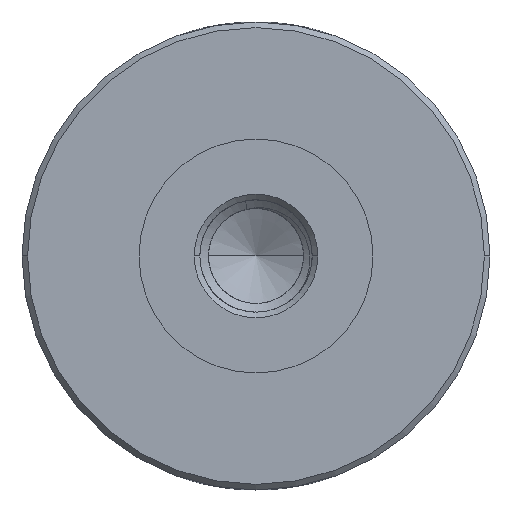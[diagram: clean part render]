
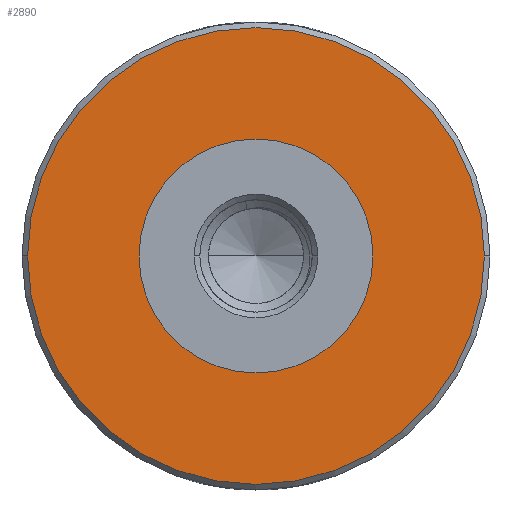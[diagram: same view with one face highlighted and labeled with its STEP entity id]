
A CAD part, front view. The second image highlights one B-rep face of the part: STEP entity #2890.
In plain terms, the highlighted planar face has unit normal (0, -1, 0).
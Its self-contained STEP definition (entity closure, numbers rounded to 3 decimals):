
#1=CARTESIAN_POINT('',(0.,-100.,0.));
#2=DIRECTION('',(0.,1.,0.));
#3=DIRECTION('',(1.,0.,0.));
#4=AXIS2_PLACEMENT_3D('',#1,#2,#3);
#6=CARTESIAN_POINT('',(0.,-100.,0.));
#7=DIRECTION('',(0.,1.,0.));
#8=DIRECTION('',(-1.,0.,0.));
#9=AXIS2_PLACEMENT_3D('',#6,#7,#8);
#11=CARTESIAN_POINT('',(0.,-100.,0.));
#12=DIRECTION('',(0.,-1.,0.));
#13=DIRECTION('',(-1.,0.,0.));
#14=AXIS2_PLACEMENT_3D('',#11,#12,#13);
#16=CARTESIAN_POINT('',(0.,-100.,0.));
#17=DIRECTION('',(0.,-1.,0.));
#18=DIRECTION('',(1.,0.,0.));
#19=AXIS2_PLACEMENT_3D('',#16,#17,#18);
#2761=CARTESIAN_POINT('',(6.25,-100.,0.));
#2762=VERTEX_POINT('',#2761);
#2763=CARTESIAN_POINT('',(-6.25,-100.,0.));
#2764=VERTEX_POINT('',#2763);
#2849=CARTESIAN_POINT('',(-12.2,-100.,0.));
#2850=CARTESIAN_POINT('',(12.2,-100.,0.));
#2851=VERTEX_POINT('',#2849);
#2852=VERTEX_POINT('',#2850);
#2873=CARTESIAN_POINT('',(0.,-100.,0.));
#2874=DIRECTION('',(0.,1.,0.));
#2875=DIRECTION('',(1.,0.,0.));
#2876=AXIS2_PLACEMENT_3D('',#2873,#2874,#2875);
#2877=PLANE('',#2876);
#2879=ORIENTED_EDGE('',*,*,#2878,.F.);
#2881=ORIENTED_EDGE('',*,*,#2880,.F.);
#2882=EDGE_LOOP('',(#2879,#2881));
#2883=FACE_OUTER_BOUND('',#2882,.F.);
#2885=ORIENTED_EDGE('',*,*,#2884,.F.);
#2887=ORIENTED_EDGE('',*,*,#2886,.F.);
#2888=EDGE_LOOP('',(#2885,#2887));
#2889=FACE_BOUND('',#2888,.F.);
#2890=ADVANCED_FACE('',(#2883,#2889),#2877,.F.);
#5=CIRCLE('',#4,6.25);
#10=CIRCLE('',#9,6.25);
#15=CIRCLE('',#14,12.2);
#20=CIRCLE('',#19,12.2);
#2878=EDGE_CURVE('',#2851,#2852,#15,.T.);
#2880=EDGE_CURVE('',#2852,#2851,#20,.T.);
#2884=EDGE_CURVE('',#2762,#2764,#5,.T.);
#2886=EDGE_CURVE('',#2764,#2762,#10,.T.);
